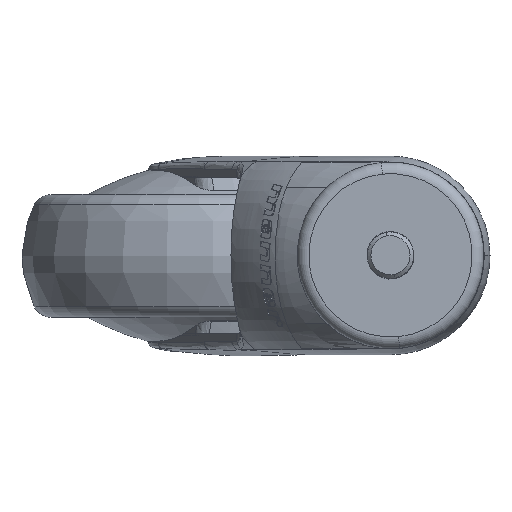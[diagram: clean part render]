
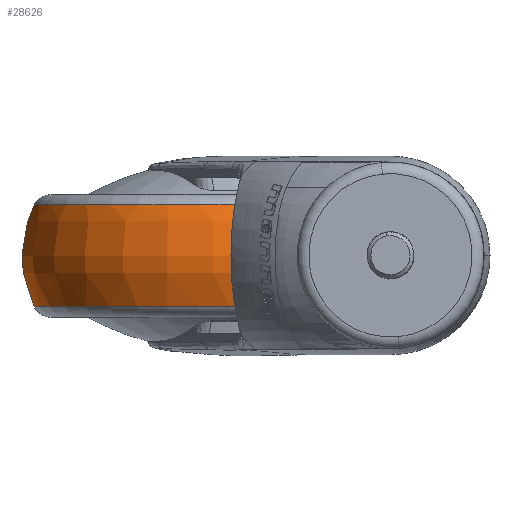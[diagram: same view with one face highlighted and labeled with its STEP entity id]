
A CAD part, top view. The second image highlights one B-rep face of the part: STEP entity #28626.
In plain terms, the highlighted toroidal (fillet/blend) face has major radius 22 mm and minor radius 28 mm.
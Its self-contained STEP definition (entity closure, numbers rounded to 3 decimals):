
#28460 = EDGE_CURVE ( 'NONE', #28462, #28464, #56107, .T. ) ;
#28462 = VERTEX_POINT ( 'NONE', #56102 ) ;
#28464 = VERTEX_POINT ( 'NONE', #56101 ) ;
#28522 = VERTEX_POINT ( 'NONE', #56326 ) ;
#28524 = VERTEX_POINT ( 'NONE', #56325 ) ;
#28596 = ORIENTED_EDGE ( 'NONE', *, *, #28598, .F. ) ;
#28598 = EDGE_CURVE ( 'NONE', #28524, #28522, #56414, .T. ) ;
#28621 = EDGE_CURVE ( 'NONE', #28462, #28524, #56452, .T. ) ;
#28624 = EDGE_CURVE ( 'NONE', #28464, #28522, #56447, .T. ) ;
#28626 = ADVANCED_FACE ( 'NONE', ( #56442 ), #56441, .T. ) ;
#28628 = EDGE_LOOP ( 'NONE', ( #28629, #28630, #28632, #28596 ) ) ;
#28629 = ORIENTED_EDGE ( 'NONE', *, *, #28621, .F. ) ;
#28630 = ORIENTED_EDGE ( 'NONE', *, *, #28460, .T. ) ;
#28632 = ORIENTED_EDGE ( 'NONE', *, *, #28624, .T. ) ;
#56101 = CARTESIAN_POINT ( 'NONE',  ( -6.93, -13.088, 46.029 ) ) ;
#56102 = CARTESIAN_POINT ( 'NONE',  ( -83.227, -13.088, -8.029 ) ) ;
#56103 = DIRECTION ( 'NONE',  ( 0.816, 0., 0.578 ) ) ;
#56104 = DIRECTION ( 'NONE',  ( 0., 1., 0. ) ) ;
#56105 = CARTESIAN_POINT ( 'NONE',  ( -45.078, -13.088, 19. ) ) ;
#56106 = AXIS2_PLACEMENT_3D ( 'NONE', #56105, #56104, #56103 ) ;
#56107 = CIRCLE ( 'NONE', #56106, 46.753 ) ;
#56325 = CARTESIAN_POINT ( 'NONE',  ( -83.227, 13.088, -8.029 ) ) ;
#56326 = CARTESIAN_POINT ( 'NONE',  ( -6.93, 13.088, 46.029 ) ) ;
#56411 = DIRECTION ( 'NONE',  ( 0.816, 0., 0.578 ) ) ;
#56412 = DIRECTION ( 'NONE',  ( 0., 1., 0. ) ) ;
#56413 = AXIS2_PLACEMENT_3D ( 'NONE', #56419, #56412, #56411 ) ;
#56414 = CIRCLE ( 'NONE', #56413, 46.753 ) ;
#56419 = CARTESIAN_POINT ( 'NONE',  ( -45.078, 13.088, 19. ) ) ;
#56437 = DIRECTION ( 'NONE',  ( 0.816, 0., 0.578 ) ) ;
#56438 = DIRECTION ( 'NONE',  ( 0., 1., 0. ) ) ;
#56439 = CARTESIAN_POINT ( 'NONE',  ( -45.078, 0., 19. ) ) ;
#56440 = AXIS2_PLACEMENT_3D ( 'NONE', #56439, #56438, #56437 ) ;
#56441 = TOROIDAL_SURFACE ( 'NONE', #56440, 22., 28. ) ;
#56442 = FACE_OUTER_BOUND ( 'NONE', #28628, .T. ) ;
#56443 = DIRECTION ( 'NONE',  ( 0.816, 0., 0.578 ) ) ;
#56444 = DIRECTION ( 'NONE',  ( -0.578, 0., 0.816 ) ) ;
#56445 = CARTESIAN_POINT ( 'NONE',  ( -27.127, 0., 31.719 ) ) ;
#56446 = AXIS2_PLACEMENT_3D ( 'NONE', #56445, #56444, #56443 ) ;
#56447 = CIRCLE ( 'NONE', #56446, 28. ) ;
#56448 = DIRECTION ( 'NONE',  ( -0.816, 0., -0.578 ) ) ;
#56449 = DIRECTION ( 'NONE',  ( 0.578, 0., -0.816 ) ) ;
#56450 = CARTESIAN_POINT ( 'NONE',  ( -63.029, 0., 6.281 ) ) ;
#56451 = AXIS2_PLACEMENT_3D ( 'NONE', #56450, #56449, #56448 ) ;
#56452 = CIRCLE ( 'NONE', #56451, 28. ) ;
